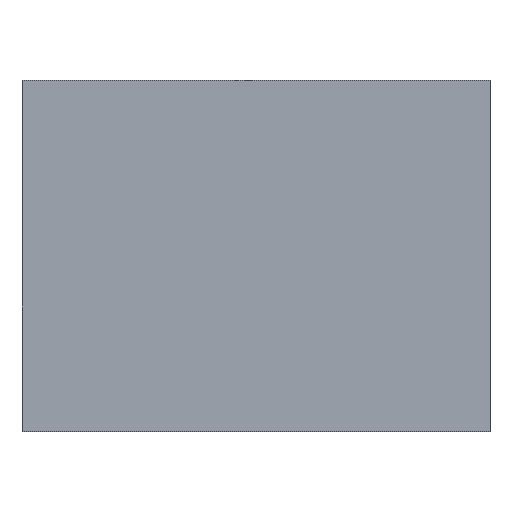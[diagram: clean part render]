
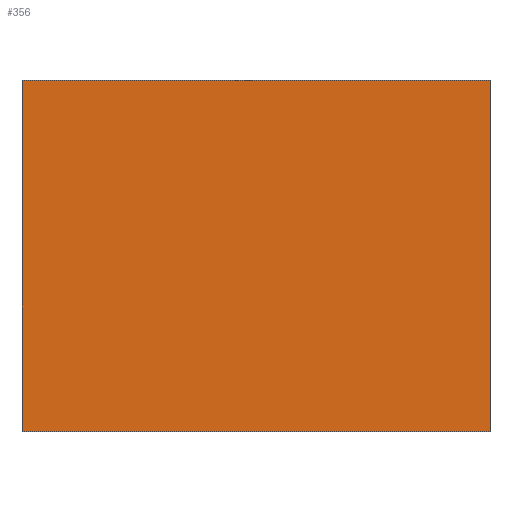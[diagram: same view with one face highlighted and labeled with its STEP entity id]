
A CAD part, top view. The second image highlights one B-rep face of the part: STEP entity #356.
In plain terms, the highlighted planar face has unit normal (0, 0, 1).
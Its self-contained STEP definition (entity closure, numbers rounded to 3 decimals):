
#42 = VERTEX_POINT('',#43);
#43 = CARTESIAN_POINT('',(-20.,-15.,7.));
#50 = PLANE('',#51);
#51 = AXIS2_PLACEMENT_3D('',#52,#53,#54);
#52 = CARTESIAN_POINT('',(-20.,-15.,-7.));
#53 = DIRECTION('',(1.,0.,-0.));
#54 = DIRECTION('',(0.,0.,1.));
#62 = PLANE('',#63);
#63 = AXIS2_PLACEMENT_3D('',#64,#65,#66);
#64 = CARTESIAN_POINT('',(-20.,-15.,-7.));
#65 = DIRECTION('',(-0.,1.,0.));
#66 = DIRECTION('',(0.,0.,1.));
#103 = VERTEX_POINT('',#104);
#104 = CARTESIAN_POINT('',(-20.,15.,7.));
#118 = PLANE('',#119);
#119 = AXIS2_PLACEMENT_3D('',#120,#121,#122);
#120 = CARTESIAN_POINT('',(-20.,15.,-7.));
#121 = DIRECTION('',(-0.,1.,0.));
#122 = DIRECTION('',(0.,0.,1.));
#130 = EDGE_CURVE('',#42,#103,#131,.T.);
#131 = SURFACE_CURVE('',#132,(#136,#143),.PCURVE_S1.);
#132 = LINE('',#133,#134);
#133 = CARTESIAN_POINT('',(-20.,-15.,7.));
#134 = VECTOR('',#135,1.);
#135 = DIRECTION('',(-0.,1.,0.));
#136 = PCURVE('',#50,#137);
#137 = DEFINITIONAL_REPRESENTATION('',(#138),#142);
#138 = LINE('',#139,#140);
#139 = CARTESIAN_POINT('',(14.,0.));
#140 = VECTOR('',#141,1.);
#141 = DIRECTION('',(0.,-1.));
#142 = ( GEOMETRIC_REPRESENTATION_CONTEXT(2) 
PARAMETRIC_REPRESENTATION_CONTEXT() REPRESENTATION_CONTEXT('2D SPACE',''
  ) );
#143 = PCURVE('',#144,#149);
#144 = PLANE('',#145);
#145 = AXIS2_PLACEMENT_3D('',#146,#147,#148);
#146 = CARTESIAN_POINT('',(-20.,-15.,7.));
#147 = DIRECTION('',(0.,0.,1.));
#148 = DIRECTION('',(1.,0.,-0.));
#149 = DEFINITIONAL_REPRESENTATION('',(#150),#154);
#150 = LINE('',#151,#152);
#151 = CARTESIAN_POINT('',(0.,0.));
#152 = VECTOR('',#153,1.);
#153 = DIRECTION('',(0.,1.));
#154 = ( GEOMETRIC_REPRESENTATION_CONTEXT(2) 
PARAMETRIC_REPRESENTATION_CONTEXT() REPRESENTATION_CONTEXT('2D SPACE',''
  ) );
#162 = VERTEX_POINT('',#163);
#163 = CARTESIAN_POINT('',(20.,-15.,7.));
#170 = PLANE('',#171);
#171 = AXIS2_PLACEMENT_3D('',#172,#173,#174);
#172 = CARTESIAN_POINT('',(20.,-15.,-7.));
#173 = DIRECTION('',(1.,0.,-0.));
#174 = DIRECTION('',(0.,0.,1.));
#213 = VERTEX_POINT('',#214);
#214 = CARTESIAN_POINT('',(20.,15.,7.));
#235 = EDGE_CURVE('',#162,#213,#236,.T.);
#236 = SURFACE_CURVE('',#237,(#241,#248),.PCURVE_S1.);
#237 = LINE('',#238,#239);
#238 = CARTESIAN_POINT('',(20.,-15.,7.));
#239 = VECTOR('',#240,1.);
#240 = DIRECTION('',(-0.,1.,0.));
#241 = PCURVE('',#170,#242);
#242 = DEFINITIONAL_REPRESENTATION('',(#243),#247);
#243 = LINE('',#244,#245);
#244 = CARTESIAN_POINT('',(14.,0.));
#245 = VECTOR('',#246,1.);
#246 = DIRECTION('',(0.,-1.));
#247 = ( GEOMETRIC_REPRESENTATION_CONTEXT(2) 
PARAMETRIC_REPRESENTATION_CONTEXT() REPRESENTATION_CONTEXT('2D SPACE',''
  ) );
#248 = PCURVE('',#144,#249);
#249 = DEFINITIONAL_REPRESENTATION('',(#250),#254);
#250 = LINE('',#251,#252);
#251 = CARTESIAN_POINT('',(40.,0.));
#252 = VECTOR('',#253,1.);
#253 = DIRECTION('',(0.,1.));
#254 = ( GEOMETRIC_REPRESENTATION_CONTEXT(2) 
PARAMETRIC_REPRESENTATION_CONTEXT() REPRESENTATION_CONTEXT('2D SPACE',''
  ) );
#281 = EDGE_CURVE('',#42,#162,#282,.T.);
#282 = SURFACE_CURVE('',#283,(#287,#294),.PCURVE_S1.);
#283 = LINE('',#284,#285);
#284 = CARTESIAN_POINT('',(-20.,-15.,7.));
#285 = VECTOR('',#286,1.);
#286 = DIRECTION('',(1.,0.,-0.));
#287 = PCURVE('',#62,#288);
#288 = DEFINITIONAL_REPRESENTATION('',(#289),#293);
#289 = LINE('',#290,#291);
#290 = CARTESIAN_POINT('',(14.,0.));
#291 = VECTOR('',#292,1.);
#292 = DIRECTION('',(0.,1.));
#293 = ( GEOMETRIC_REPRESENTATION_CONTEXT(2) 
PARAMETRIC_REPRESENTATION_CONTEXT() REPRESENTATION_CONTEXT('2D SPACE',''
  ) );
#294 = PCURVE('',#144,#295);
#295 = DEFINITIONAL_REPRESENTATION('',(#296),#300);
#296 = LINE('',#297,#298);
#297 = CARTESIAN_POINT('',(0.,0.));
#298 = VECTOR('',#299,1.);
#299 = DIRECTION('',(1.,0.));
#300 = ( GEOMETRIC_REPRESENTATION_CONTEXT(2) 
PARAMETRIC_REPRESENTATION_CONTEXT() REPRESENTATION_CONTEXT('2D SPACE',''
  ) );
#328 = EDGE_CURVE('',#103,#213,#329,.T.);
#329 = SURFACE_CURVE('',#330,(#334,#341),.PCURVE_S1.);
#330 = LINE('',#331,#332);
#331 = CARTESIAN_POINT('',(-20.,15.,7.));
#332 = VECTOR('',#333,1.);
#333 = DIRECTION('',(1.,0.,-0.));
#334 = PCURVE('',#118,#335);
#335 = DEFINITIONAL_REPRESENTATION('',(#336),#340);
#336 = LINE('',#337,#338);
#337 = CARTESIAN_POINT('',(14.,0.));
#338 = VECTOR('',#339,1.);
#339 = DIRECTION('',(0.,1.));
#340 = ( GEOMETRIC_REPRESENTATION_CONTEXT(2) 
PARAMETRIC_REPRESENTATION_CONTEXT() REPRESENTATION_CONTEXT('2D SPACE',''
  ) );
#341 = PCURVE('',#144,#342);
#342 = DEFINITIONAL_REPRESENTATION('',(#343),#347);
#343 = LINE('',#344,#345);
#344 = CARTESIAN_POINT('',(0.,30.));
#345 = VECTOR('',#346,1.);
#346 = DIRECTION('',(1.,0.));
#347 = ( GEOMETRIC_REPRESENTATION_CONTEXT(2) 
PARAMETRIC_REPRESENTATION_CONTEXT() REPRESENTATION_CONTEXT('2D SPACE',''
  ) );
#356 = ADVANCED_FACE('',(#357),#144,.T.);
#357 = FACE_BOUND('',#358,.T.);
#358 = EDGE_LOOP('',(#359,#360,#361,#362));
#359 = ORIENTED_EDGE('',*,*,#130,.F.);
#360 = ORIENTED_EDGE('',*,*,#281,.T.);
#361 = ORIENTED_EDGE('',*,*,#235,.T.);
#362 = ORIENTED_EDGE('',*,*,#328,.F.);
